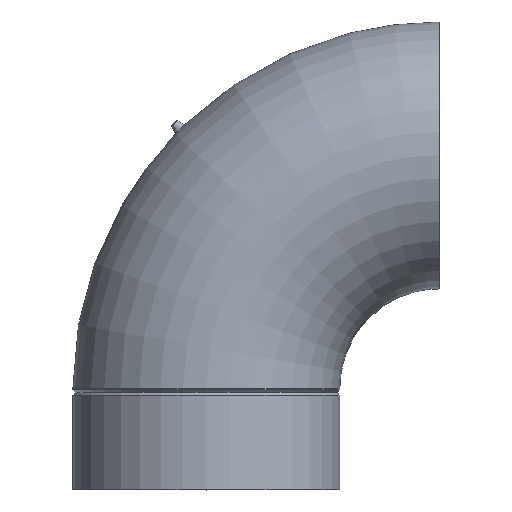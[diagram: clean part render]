
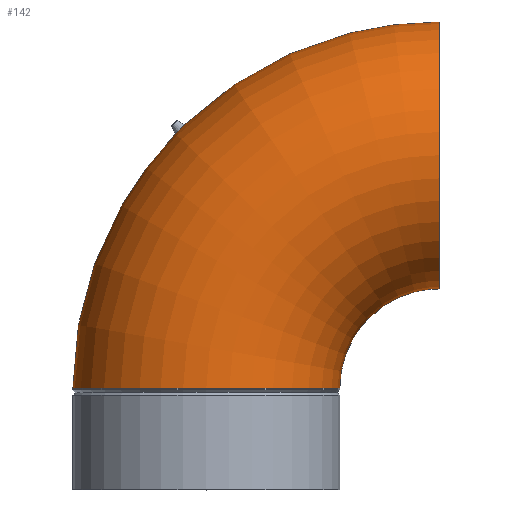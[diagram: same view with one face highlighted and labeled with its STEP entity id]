
A CAD part, top view. The second image highlights one B-rep face of the part: STEP entity #142.
In plain terms, the highlighted toroidal (fillet/blend) face has major radius 140 mm and minor radius 80.24 mm.
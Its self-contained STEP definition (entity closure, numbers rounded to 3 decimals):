
#13=TOROIDAL_SURFACE($,#165,140.,80.24);
#27=FACE_BOUND($,#59,.T.);
#28=FACE_BOUND($,#60,.T.);
#33=B_SPLINE_CURVE_WITH_KNOTS($,3,(#218,#219,#220,#221,#222,#223,#224,#225,
#226,#227,#228,#229,#230,#231,#232,#233,#234,#235,#236,#237,#238,#239,#240,
#241,#242,#243,#244,#245,#246,#247,#248,#249,#250,#251,#252,#253,#254,#255,
#256,#257,#258,#259,#260,#261,#262,#263),.UNSPECIFIED.,.T.,.F.,(4,2,2,2,
2,2,2,2,2,2,2,2,2,2,2,2,2,2,2,2,2,2,4),(-2.429,-2.35,
-2.268,-2.133,-1.979,-1.893,
-1.832,-1.775,-1.702,-1.578,
-1.428,-1.275,-1.126,-0.986,
-0.854,-0.726,-0.653,-0.596,
-0.542,-0.461,-0.307,-0.155,
0.),.UNSPECIFIED.);
#42=FACE_OUTER_BOUND($,#58,.T.);
#58=EDGE_LOOP($,(#112));
#59=EDGE_LOOP($,(#113));
#60=EDGE_LOOP($,(#114));
#70=CIRCLE($,#159,80.24);
#74=CIRCLE($,#166,80.24);
#76=VERTEX_POINT($,#217);
#81=VERTEX_POINT($,#277);
#85=VERTEX_POINT($,#288);
#87=EDGE_CURVE($,#76,#76,#33,.T.);
#92=EDGE_CURVE($,#81,#81,#70,.T.);
#96=EDGE_CURVE($,#85,#85,#74,.T.);
#112=ORIENTED_EDGE($,*,*,#96,.T.);
#113=ORIENTED_EDGE($,*,*,#87,.T.);
#114=ORIENTED_EDGE($,*,*,#92,.F.);
#142=ADVANCED_FACE($,(#42,#27,#28),#13,.T.);
#159=AXIS2_PLACEMENT_3D($,#278,#193,#194);
#165=AXIS2_PLACEMENT_3D($,#287,#205,#206);
#166=AXIS2_PLACEMENT_3D($,#289,#207,#208);
#193=DIRECTION('center_axis',(0.,-1.,0.));
#194=DIRECTION('ref_axis',(1.,0.,0.));
#205=DIRECTION('center_axis',(0.,0.,-1.));
#206=DIRECTION('ref_axis',(-1.,0.,0.));
#207=DIRECTION('center_axis',(-1.,0.,0.));
#208=DIRECTION('ref_axis',(0.,-1.,0.));
#217=CARTESIAN_POINT('',(-12.988,219.431,0.));
#218=CARTESIAN_POINT('Ctrl Pts',(-12.988,219.431,0.));
#219=CARTESIAN_POINT('Ctrl Pts',(-12.988,219.431,0.263));
#220=CARTESIAN_POINT('Ctrl Pts',(-13.006,219.411,0.526));
#221=CARTESIAN_POINT('Ctrl Pts',(-13.081,219.332,1.052));
#222=CARTESIAN_POINT('Ctrl Pts',(-13.138,219.272,1.312));
#223=CARTESIAN_POINT('Ctrl Pts',(-13.338,219.059,1.976));
#224=CARTESIAN_POINT('Ctrl Pts',(-13.513,218.876,2.354));
#225=CARTESIAN_POINT('Ctrl Pts',(-13.974,218.393,3.05));
#226=CARTESIAN_POINT('Ctrl Pts',(-14.268,218.088,3.345));
#227=CARTESIAN_POINT('Ctrl Pts',(-14.78,217.563,3.663));
#228=CARTESIAN_POINT('Ctrl Pts',(-14.973,217.367,3.747));
#229=CARTESIAN_POINT('Ctrl Pts',(-15.31,217.026,3.836));
#230=CARTESIAN_POINT('Ctrl Pts',(-15.452,216.883,3.858));
#231=CARTESIAN_POINT('Ctrl Pts',(-15.729,216.606,3.868));
#232=CARTESIAN_POINT('Ctrl Pts',(-15.864,216.471,3.859));
#233=CARTESIAN_POINT('Ctrl Pts',(-16.17,216.167,3.806));
#234=CARTESIAN_POINT('Ctrl Pts',(-16.34,216.,3.754));
#235=CARTESIAN_POINT('Ctrl Pts',(-16.786,215.562,3.552));
#236=CARTESIAN_POINT('Ctrl Pts',(-17.051,215.304,3.362));
#237=CARTESIAN_POINT('Ctrl Pts',(-17.58,214.794,2.821));
#238=CARTESIAN_POINT('Ctrl Pts',(-17.827,214.559,2.45));
#239=CARTESIAN_POINT('Ctrl Pts',(-18.21,214.196,1.588));
#240=CARTESIAN_POINT('Ctrl Pts',(-18.34,214.074,1.103));
#241=CARTESIAN_POINT('Ctrl Pts',(-18.453,213.967,0.107));
#242=CARTESIAN_POINT('Ctrl Pts',(-18.439,213.98,-0.394));
#243=CARTESIAN_POINT('Ctrl Pts',(-18.281,214.129,-1.333));
#244=CARTESIAN_POINT('Ctrl Pts',(-18.145,214.257,-1.764));
#245=CARTESIAN_POINT('Ctrl Pts',(-17.78,214.604,-2.517));
#246=CARTESIAN_POINT('Ctrl Pts',(-17.561,214.813,-2.837));
#247=CARTESIAN_POINT('Ctrl Pts',(-17.061,215.295,-3.356));
#248=CARTESIAN_POINT('Ctrl Pts',(-16.785,215.563,-3.554));
#249=CARTESIAN_POINT('Ctrl Pts',(-16.329,216.011,-3.758));
#250=CARTESIAN_POINT('Ctrl Pts',(-16.16,216.177,-3.809));
#251=CARTESIAN_POINT('Ctrl Pts',(-15.856,216.479,-3.86));
#252=CARTESIAN_POINT('Ctrl Pts',(-15.721,216.614,-3.869));
#253=CARTESIAN_POINT('Ctrl Pts',(-15.46,216.875,-3.858));
#254=CARTESIAN_POINT('Ctrl Pts',(-15.335,217.001,-3.84));
#255=CARTESIAN_POINT('Ctrl Pts',(-15.023,217.316,-3.764));
#256=CARTESIAN_POINT('Ctrl Pts',(-14.839,217.503,-3.69));
#257=CARTESIAN_POINT('Ctrl Pts',(-14.33,218.024,-3.397));
#258=CARTESIAN_POINT('Ctrl Pts',(-14.029,218.336,-3.112));
#259=CARTESIAN_POINT('Ctrl Pts',(-13.528,218.859,-2.395));
#260=CARTESIAN_POINT('Ctrl Pts',(-13.332,219.067,-1.972));
#261=CARTESIAN_POINT('Ctrl Pts',(-13.059,219.355,-1.029));
#262=CARTESIAN_POINT('Ctrl Pts',(-12.988,219.431,-0.517));
#263=CARTESIAN_POINT('Ctrl Pts',(-12.988,219.431,0.));
#277=CARTESIAN_POINT('',(-80.24,61.,0.));
#278=CARTESIAN_POINT('Origin',(0.,61.,0.));
#287=CARTESIAN_POINT('Origin',(140.,61.,0.));
#288=CARTESIAN_POINT('',(140.,281.24,0.));
#289=CARTESIAN_POINT('Origin',(140.,201.,0.));
